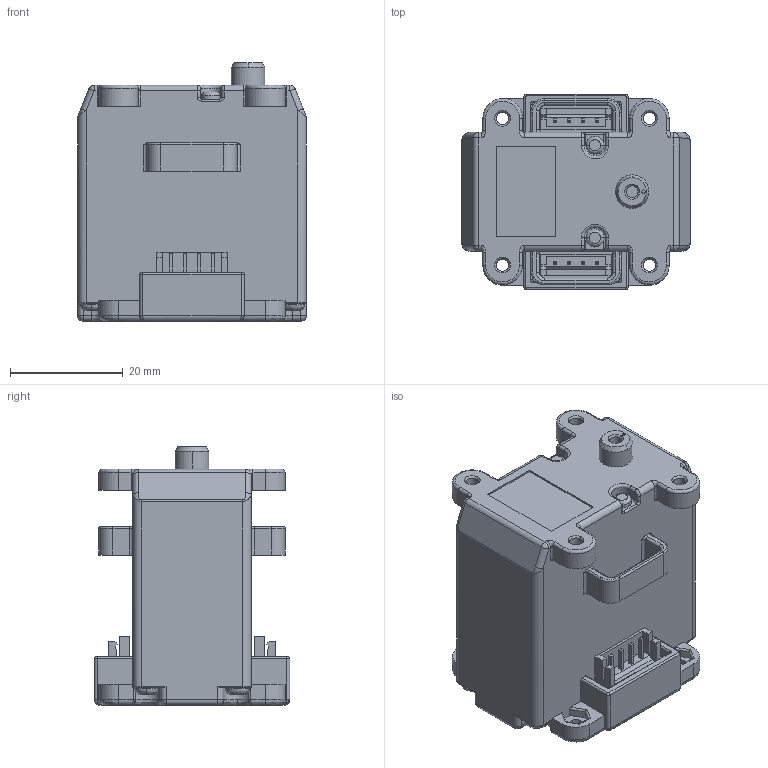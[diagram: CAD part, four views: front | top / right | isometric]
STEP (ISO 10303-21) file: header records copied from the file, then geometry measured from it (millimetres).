
FILE_DESCRIPTION (( 'STEP AP203' ), '1' );
FILE_NAME ('RS405CB_外形図.stp.STEP', '2008-10-29T06:28:54', ( 'cada3' ), ( '双葉電子工業（株）' ), 'SwSTEP 2.0', 'SolidWorks 2008', '' );
FILE_SCHEMA (( 'CONFIG_CONTROL_DESIGN' ));
Length unit declared in the file: millimetre
Products named in the file (1): RS405CB_外形図.stp
Bounding box: 40.5 x 34.6 x 45.8 mm (x, y, z)
Volume: 38098.6 mm3; surface area: 9939.1 mm2
Topology: 1 solids, 5 shells, 665 faces, 1634 edges, 993 vertices
Faces by surface type: plane 279, cylinder 256, bspline 102, cone 24, torus 4
Entity records: 24187 total; most frequent: CARTESIAN_POINT 9056, ORIENTED_EDGE 3250, DIRECTION 2961, EDGE_CURVE 1625, AXIS2_PLACEMENT_3D 1006, VERTEX_POINT 993, VECTOR 949, LINE 949
